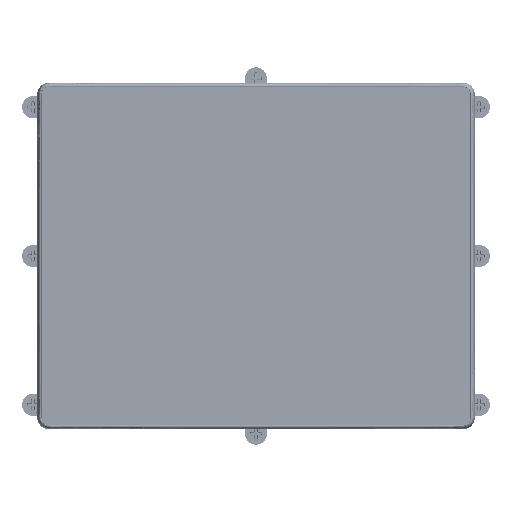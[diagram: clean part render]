
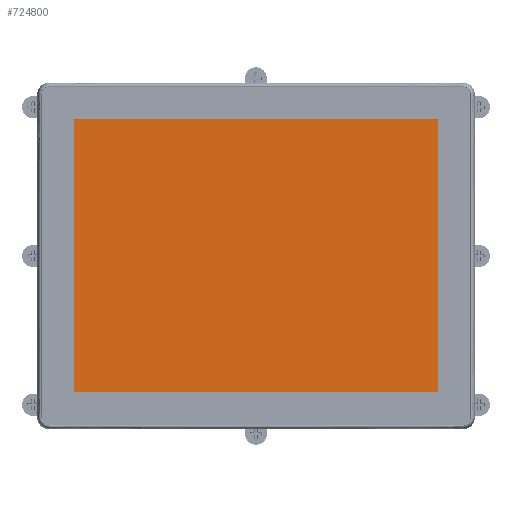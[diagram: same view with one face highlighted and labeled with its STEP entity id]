
A CAD part, top view. The second image highlights one B-rep face of the part: STEP entity #724800.
In plain terms, the highlighted planar face has unit normal (0, 0, 1).
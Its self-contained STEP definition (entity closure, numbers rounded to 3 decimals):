
#213213=DIRECTION('',(0.,-1.,0.));
#213214=VECTOR('',#213213,185.32);
#213215=CARTESIAN_POINT('',(-123.38,92.66,4.79));
#213216=LINE('',#213215,#213214);
#213233=DIRECTION('',(-1.,0.,0.));
#213234=VECTOR('',#213233,246.76);
#213235=CARTESIAN_POINT('',(123.38,92.66,4.79));
#213236=LINE('',#213235,#213234);
#213241=DIRECTION('',(0.,1.,0.));
#213242=VECTOR('',#213241,185.32);
#213243=CARTESIAN_POINT('',(123.38,-92.66,4.79));
#213244=LINE('',#213243,#213242);
#213253=DIRECTION('',(1.,0.,0.));
#213254=VECTOR('',#213253,246.76);
#213255=CARTESIAN_POINT('',(-123.38,-92.66,4.79));
#213256=LINE('',#213255,#213254);
#366735=CARTESIAN_POINT('',(-123.38,92.66,4.79));
#366737=VERTEX_POINT('',#366735);
#366740=CARTESIAN_POINT('',(-123.38,-92.66,4.79));
#366742=VERTEX_POINT('',#366740);
#366744=CARTESIAN_POINT('',(123.38,-92.66,4.79));
#366746=VERTEX_POINT('',#366744);
#366748=CARTESIAN_POINT('',(123.38,92.66,4.79));
#366750=VERTEX_POINT('',#366748);
#724789=CARTESIAN_POINT('',(0.,0.,4.79));
#724790=DIRECTION('',(0.,0.,1.));
#724791=DIRECTION('',(1.,0.,0.));
#724792=AXIS2_PLACEMENT_3D('',#724789,#724790,#724791);
#724793=PLANE('',#724792);
#724794=ORIENTED_EDGE('',*,*,#724712,.F.);
#724795=ORIENTED_EDGE('',*,*,#724736,.F.);
#724796=ORIENTED_EDGE('',*,*,#724755,.F.);
#724797=ORIENTED_EDGE('',*,*,#724775,.F.);
#724798=EDGE_LOOP('',(#724794,#724795,#724796,#724797));
#724799=FACE_OUTER_BOUND('',#724798,.F.);
#724800=ADVANCED_FACE('',(#724799),#724793,.T.);
#724712=EDGE_CURVE('',#366737,#366742,#213216,.T.);
#724736=EDGE_CURVE('',#366750,#366737,#213236,.T.);
#724755=EDGE_CURVE('',#366746,#366750,#213244,.T.);
#724775=EDGE_CURVE('',#366742,#366746,#213256,.T.);
